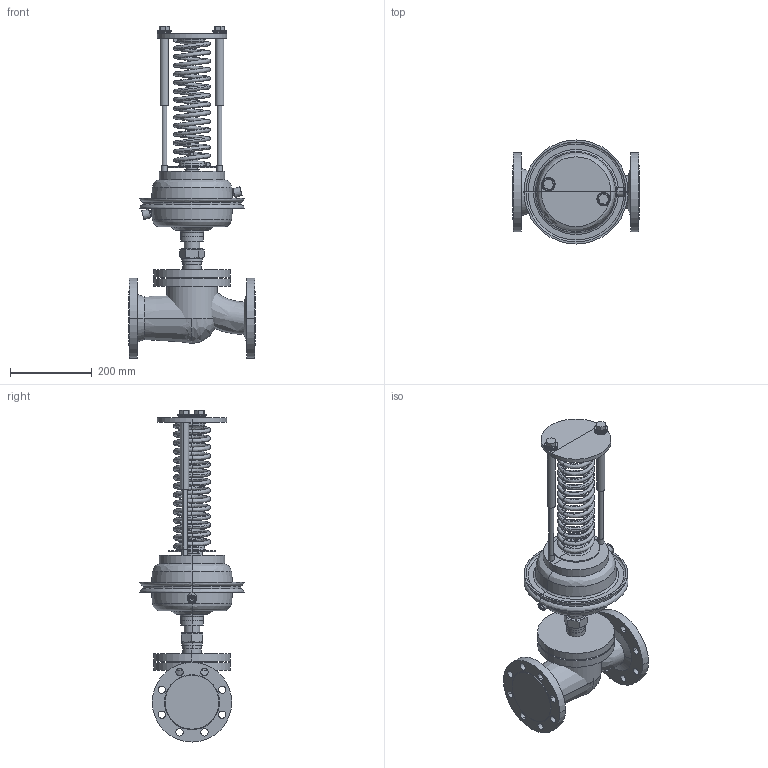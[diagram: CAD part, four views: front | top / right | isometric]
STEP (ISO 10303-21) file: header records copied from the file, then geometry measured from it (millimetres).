
FILE_DESCRIPTION(/* description */ (''),/* implementation_level */ '2;1');
FILE_NAME(/* name */ 'ETM_Регулятордавления_УРРД_НЗ_РД_DN80',/* time_stamp */ '2026-04-18T15:03:01+03:00',/* author */ (''),/* organization */ (''),/* preprocessor_version */ 'ST-DEVELOPER v20',/* originating_system */ '',/* authorisation */ '');
FILE_SCHEMA (('AP242_MANAGED_MODEL_BASED_3D_ENGINEERING_MIM_LF { 1 0 10303 442 1 1 4 }'));
Length unit declared in the file: millimetre
Products named in the file (13): TopLevelAssembly; Выдавливание; Переход; Выдавливание_
1; Переход_1; Переход_2; Переход_3; Объемная геометрия 
присоединена; Выдавливание_
2; Выдавливание_
3; Объемная геометрия 
присоединена_1; Выдавливание_
4; Пружина желтая
Assembly tree (12 placements, depth 2):
  TopLevelAssembly
    Выдавливание
    Переход
    Выдавливание_
1
    Переход_1
    Переход_2
    Переход_3
    Объемная геометрия 
присоединена
    Выдавливание_
2
    Выдавливание_
3
    Объемная геометрия 
присоединена_1
    Выдавливание_
4
    Пружина желтая
Bounding box: 310 x 255.07 x 813.51 mm (x, y, z)
Volume: 11029880.4 mm3; surface area: 1081903.4 mm2
Topology: 33 solids, 33 shells, 522 faces, 1078 edges, 560 vertices
Faces by surface type: bspline 191, plane 183, cylinder 138, cone 10
Entity records: 17101 total; most frequent: CARTESIAN_POINT 5903, DIRECTION 2372, ORIENTED_EDGE 2064, EDGE_CURVE 1032, AXIS2_PLACEMENT_3D 1008, CIRCLE 651, VERTEX_POINT 560, EDGE_LOOP 558
